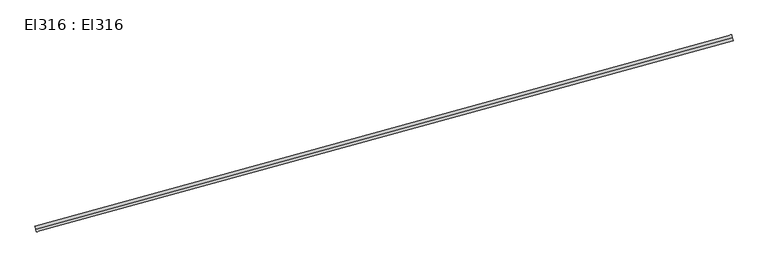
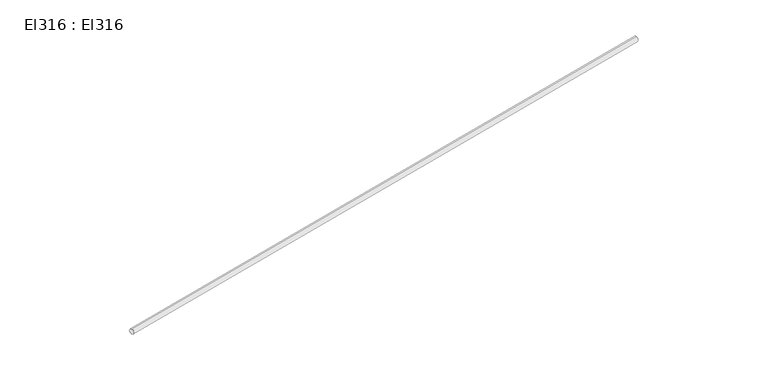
"""IFC4 building model written with IfcOpenShell, lengths in millimetres: cable carrier segment geometry, El316 : El316."""

from ifc_helpers import new_model, si_unit, point, frame, frame_2d, origin, place, context, project, spatial, circle_curve, trimmed, segment, composite_curve, outline, extrude, source, transform, mapped, element, save


def el316_el316_6ea09cb1(model_context):
    return source(origin(), model_context, "Body", "SweptSolid", [
        extrude(outline(composite_curve([segment(trimmed(circle_curve(frame_2d((0.0, -9.5)), 9.5), [point((0.0, -19.0))], [point((0.0, 0.0))], False, "CARTESIAN"), True, "CONTINUOUS"), segment(trimmed(circle_curve(frame_2d((0.0, -9.5)), 9.5), [point((0.0, 0.0))], [point((0.0, -19.0))], False, "CARTESIAN"), True, "CONTINUOUS")], self_intersect=False)), frame((27661.81, 16172.798, 2959.5), z_axis=(0.9643179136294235, 0.26474697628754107, 0.0), x_axis=(-0.26474697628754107, 0.9643179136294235, 0.0)), (0.0, 0.0, 1.0), 2311.66),
    ])


if __name__ == "__main__":
    model = new_model("IFC4")
    model_context = context("Model", 3, world=origin())
    ifc_project = project(units=[si_unit("LENGTHUNIT", "METRE", prefix="MILLI")], contexts=[model_context])
    site = spatial("IfcSite", under=ifc_project)
    building = spatial("IfcBuilding", under=site)
    placement = place(None, origin())
    el316_el316_shape = el316_el316_6ea09cb1(model_context)
    element("IfcCableCarrierSegment", 1, ObjectType="El316 : El316", at=placement, inside=building, context=model_context, shape_type="MappedRepresentation", body=[
        mapped(el316_el316_shape, transform((0.0, 0.0, 0.0), x_axis=(1.0, 0.0, 0.0), y_axis=(0.0, 1.0, 0.0), z_axis=(0.0, 0.0, 1.0))),
    ])
    save(model, "model.ifc")
